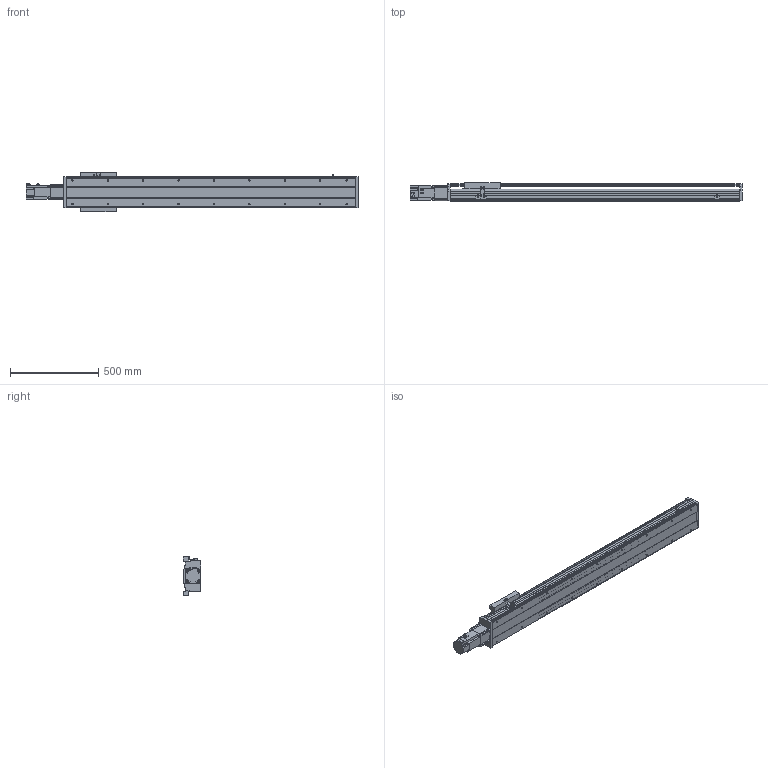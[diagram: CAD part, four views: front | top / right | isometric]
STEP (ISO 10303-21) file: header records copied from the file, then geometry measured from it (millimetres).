
FILE_DESCRIPTION( ( 'STEP AP214' ), '1' );
FILE_NAME( 'x:/temp/worker_27/temp/exporttempdir_6708_415_nyWm7/format_0/PSS200-L10-S1300-BC-T75-C1-N(0).stp', '2022-06-06T02:37:26', ( 'License CC BY-ND 4.0' ), ( 'CADENAS' ), ' ', 'PARTsolutions', ' ' );
FILE_SCHEMA( ( 'AUTOMOTIVE_DESIGN { 1 0 10303 214 1 1 1 1 }' ) );
Length unit declared in the file: millimetre
Products named in the file (8): PSS200-L10-S1300-BC-T75-C1-N(0); _PSS200-S1300-BC-C1-N_body; _PSS200-N_Q; _PSS200-BC-C1-N_sl; _PSS200-N_sensor; _PSS200BC-N_h; _T75-p1; _PSS200-S1300-BC-N_S
Assembly tree (9 placements, depth 2):
  PSS200-L10-S1300-BC-T75-C1-N(0)
    _PSS200-S1300-BC-C1-N_body
    _PSS200-N_Q
    _PSS200-BC-C1-N_sl
    _PSS200-N_sensor  x3
    _PSS200BC-N_h
    _T75-p1
    _PSS200-S1300-BC-N_S
Bounding box: 1876.3 x 101.5 x 223.86 mm (x, y, z)
Volume: 9935816 mm3; surface area: 2613990.7 mm2
Topology: 9 solids, 9 shells, 589 faces, 1579 edges, 1048 vertices
Faces by surface type: plane 439, cylinder 124, cone 26
Full cylindrical faces by diameter (mm): 4 x2, 4.5 x4, 6 x11, 6.647 x22, 8 x8, 10 x6, 25 x1, 67 x1, 70 x1
Entity records: 20651 total; most frequent: CARTESIAN_POINT 2872, DIRECTION 2701, ORIENTED_EDGE 2666, EDGE_CURVE 1333, LINE 1051, VECTOR 1051, VERTEX_POINT 932, AXIS2_PLACEMENT_3D 825
